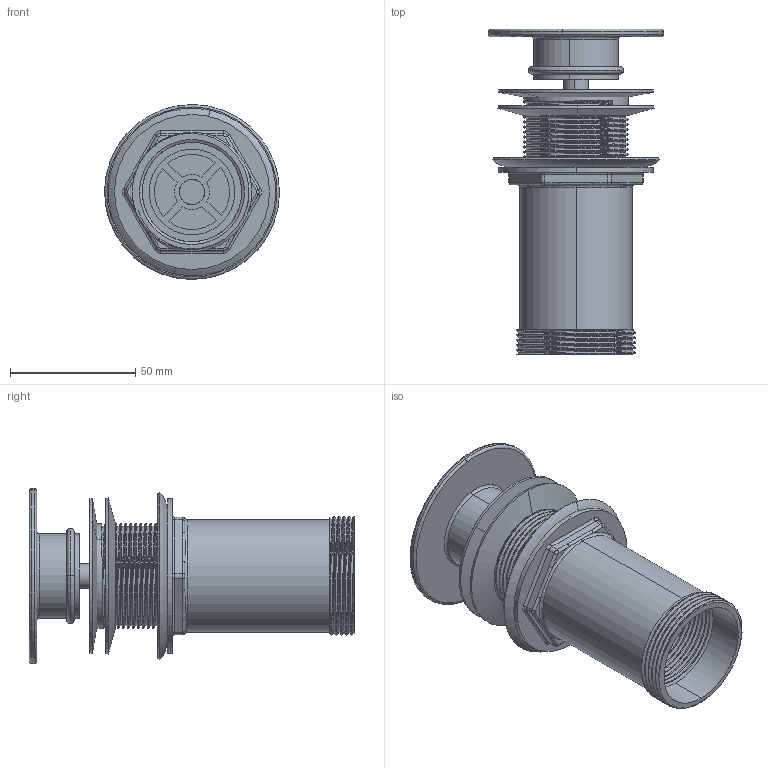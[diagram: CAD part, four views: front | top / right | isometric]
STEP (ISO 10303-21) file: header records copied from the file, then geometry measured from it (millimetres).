
FILE_DESCRIPTION (( 'STEP AP214' ), '1' );
FILE_NAME ('K728D-SOLID-SURFACE.STEP', '2020-11-04T08:21:16', ( '' ), ( '' ), 'SwSTEP 2.0', 'SolidWorks 2020', '' );
FILE_SCHEMA (( 'AUTOMOTIVE_DESIGN' ));
Length unit declared in the file: millimetre
Products named in the file (1): K728D-SOLID-SURFACE
Bounding box: 69.99 x 130.26 x 69.99 mm (x, y, z)
Volume: 90477.7 mm3; surface area: 79897.9 mm2
Topology: 6 solids, 6 shells, 295 faces, 771 edges, 492 vertices
Faces by surface type: cylinder 201, plane 39, torus 28, bspline 15, cone 12
Entity records: 27285 total; most frequent: CARTESIAN_POINT 17519, ORIENTED_EDGE 1542, DIRECTION 1195, EDGE_CURVE 771, VERTEX_POINT 492, AXIS2_PLACEMENT_3D 463, EDGE_LOOP 317, UNCERTAINTY_MEASURE_WITH_UNIT 303
